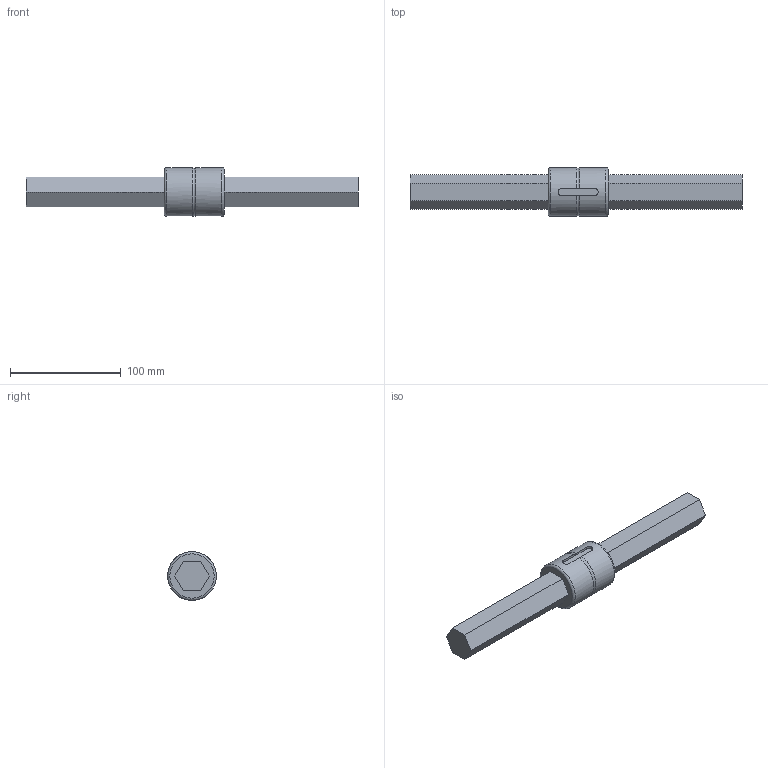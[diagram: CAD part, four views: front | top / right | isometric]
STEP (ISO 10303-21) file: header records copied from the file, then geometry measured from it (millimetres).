
FILE_DESCRIPTION((''),'2;1');
FILE_NAME('D:\製品 (図面)\カタログ用3D\ネジ関連\STEP形式\HTS\HTS27.stp','2010-06-01T16:51:08',('Tsuchiya'),(''),'Autodesk Inventor 10','Autodesk Inventor 10','');
FILE_SCHEMA(('AUTOMOTIVE_DESIGN { 1 0 10303 214 1 1 1 1 }'));
Length unit declared in the file: millimetre
Products named in the file (3): HTS27; HTS271; HTS272
Assembly tree (2 placements, depth 2):
  HTS27
    HTS271
    HTS272
Bounding box: 300 x 44 x 44 mm (x, y, z)
Volume: 235901.7 mm3; surface area: 43990.9 mm2
Topology: 2 solids, 2 shells, 36 faces, 89 edges, 59 vertices
Faces by surface type: plane 27, cylinder 6, torus 2, bspline 1
Full cylindrical faces by diameter (mm): 2 x1, 32.2 x1, 44 x2
Entity records: 1362 total; most frequent: CARTESIAN_POINT 463, DIRECTION 164, ORIENTED_EDGE 164, EDGE_CURVE 82, VECTOR 64, LINE 64, VERTEX_POINT 58, AXIS2_PLACEMENT_3D 50
